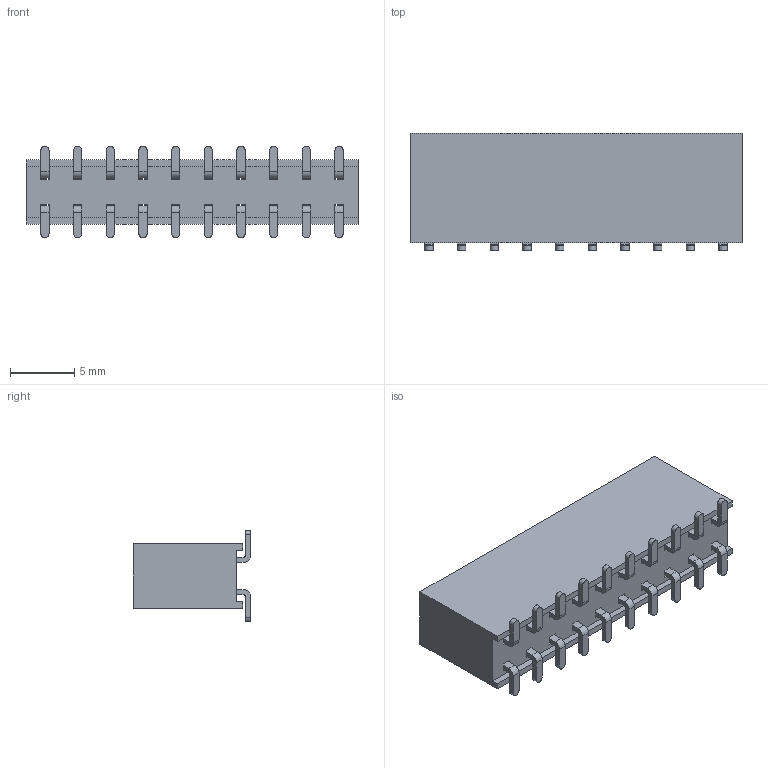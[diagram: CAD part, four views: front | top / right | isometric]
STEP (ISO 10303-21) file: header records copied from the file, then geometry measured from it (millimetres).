
FILE_DESCRIPTION(/* description */ (''),/* implementation_level */ '2;1');
FILE_NAME(/* name */ 'E:\工作文件\排针排母\PM排母\2.54\双排\S-贴片\塑高8.5\PM254-2-N-S-8.5-XX (2.54双排 贴片 排母-HCTL)\PM254-2-10-S-8.5-XX (2.54双排 贴片 排母-HCTL).stp',/* time_stamp */ '2023-12-28T17:00:28+08:00',/* author */ ('admin'),/* organization */ (''),/* preprocessor_version */ 'ST-DEVELOPER v18.1',/* originating_system */ 'Autodesk Inventor 2021',/* authorisation */ '');
FILE_SCHEMA (('AUTOMOTIVE_DESIGN { 1 0 10303 214 3 1 1 }'));
Length unit declared in the file: millimetre
Products named in the file (1): PM254-2-2-S-8.5-XX (2.54双排 贴片 
排母-HCTL)
Bounding box: 25.8 x 9.1 x 7.1 mm (x, y, z)
Volume: 1007.1 mm3; surface area: 1369 mm2
Topology: 1 solids, 1 shells, 370 faces, 1064 edges, 656 vertices
Faces by surface type: plane 310, cylinder 60
Entity records: 11969 total; most frequent: ORIENTED_EDGE 2128, CARTESIAN_POINT 2091, DIRECTION 1926, EDGE_CURVE 1064, LINE 944, VECTOR 944, VERTEX_POINT 656, AXIS2_PLACEMENT_3D 491
